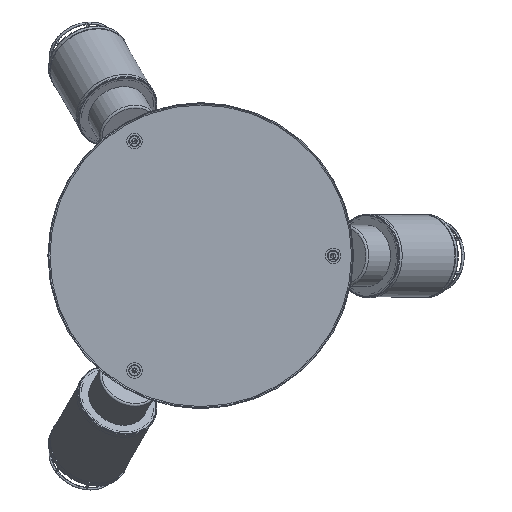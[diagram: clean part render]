
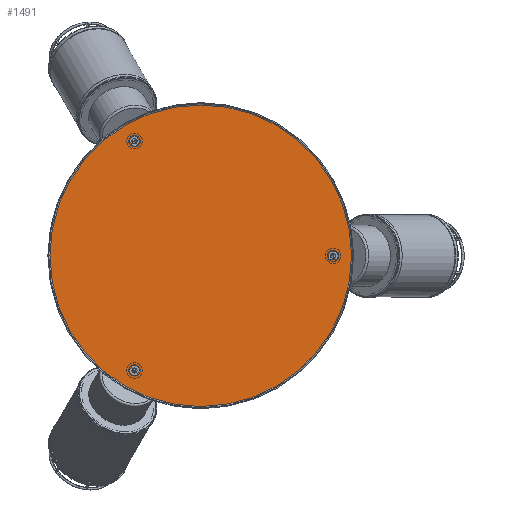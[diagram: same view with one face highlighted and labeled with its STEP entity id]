
A CAD part, top view. The second image highlights one B-rep face of the part: STEP entity #1491.
In plain terms, the highlighted planar face has unit normal (0, 0, 1).
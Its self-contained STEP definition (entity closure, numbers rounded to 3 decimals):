
#739=FACE_BOUND('',#2798,.T.);
#740=FACE_BOUND('',#2799,.T.);
#741=FACE_BOUND('',#2800,.T.);
#742=FACE_BOUND('',#2801,.T.);
#895=PLANE('',#9230);
#1491=ADVANCED_FACE('',(#739,#740,#741,#742),#895,.T.);
#2798=EDGE_LOOP('',(#5686,#5687));
#2799=EDGE_LOOP('',(#5688,#5689,#5690,#5691));
#2800=EDGE_LOOP('',(#5692,#5693,#5694,#5695));
#2801=EDGE_LOOP('',(#5696,#5697,#5698,#5699));
#3470=CIRCLE('',#9222,148.);
#3471=CIRCLE('',#9223,148.);
#3472=CIRCLE('',#9224,5.1);
#3473=CIRCLE('',#9225,5.1);
#3474=CIRCLE('',#9226,5.1);
#3475=CIRCLE('',#9227,5.1);
#3476=CIRCLE('',#9228,5.1);
#3477=CIRCLE('',#9229,5.1);
#5686=ORIENTED_EDGE('',*,*,#7592,.F.);
#5687=ORIENTED_EDGE('',*,*,#7593,.F.);
#5688=ORIENTED_EDGE('',*,*,#7594,.F.);
#5689=ORIENTED_EDGE('',*,*,#7595,.F.);
#5690=ORIENTED_EDGE('',*,*,#7596,.F.);
#5691=ORIENTED_EDGE('',*,*,#7597,.F.);
#5692=ORIENTED_EDGE('',*,*,#7598,.F.);
#5693=ORIENTED_EDGE('',*,*,#7599,.F.);
#5694=ORIENTED_EDGE('',*,*,#7600,.F.);
#5695=ORIENTED_EDGE('',*,*,#7601,.F.);
#5696=ORIENTED_EDGE('',*,*,#7602,.F.);
#5697=ORIENTED_EDGE('',*,*,#7603,.F.);
#5698=ORIENTED_EDGE('',*,*,#7604,.F.);
#5699=ORIENTED_EDGE('',*,*,#7605,.F.);
#6459=VERTEX_POINT('',#23839);
#6460=VERTEX_POINT('',#23840);
#6461=VERTEX_POINT('',#23843);
#6462=VERTEX_POINT('',#23844);
#6463=VERTEX_POINT('',#23846);
#6464=VERTEX_POINT('',#23848);
#6465=VERTEX_POINT('',#23851);
#6466=VERTEX_POINT('',#23852);
#6467=VERTEX_POINT('',#23854);
#6468=VERTEX_POINT('',#23856);
#6469=VERTEX_POINT('',#23859);
#6470=VERTEX_POINT('',#23860);
#6471=VERTEX_POINT('',#23862);
#6472=VERTEX_POINT('',#23864);
#7592=EDGE_CURVE('',#6459,#6460,#3470,.T.);
#7593=EDGE_CURVE('',#6460,#6459,#3471,.T.);
#7594=EDGE_CURVE('',#6461,#6462,#7880,.T.);
#7595=EDGE_CURVE('',#6463,#6461,#3472,.T.);
#7596=EDGE_CURVE('',#6464,#6463,#7881,.T.);
#7597=EDGE_CURVE('',#6462,#6464,#3473,.T.);
#7598=EDGE_CURVE('',#6465,#6466,#3474,.T.);
#7599=EDGE_CURVE('',#6467,#6465,#7882,.T.);
#7600=EDGE_CURVE('',#6468,#6467,#3475,.T.);
#7601=EDGE_CURVE('',#6466,#6468,#7883,.T.);
#7602=EDGE_CURVE('',#6469,#6470,#3476,.T.);
#7603=EDGE_CURVE('',#6471,#6469,#7884,.T.);
#7604=EDGE_CURVE('',#6472,#6471,#3477,.T.);
#7605=EDGE_CURVE('',#6470,#6472,#7885,.T.);
#7880=LINE('',#23842,#8154);
#7881=LINE('',#23847,#8155);
#7882=LINE('',#23853,#8156);
#7883=LINE('',#23857,#8157);
#7884=LINE('',#23861,#8158);
#7885=LINE('',#23865,#8159);
#8154=VECTOR('',#11606,1.);
#8155=VECTOR('',#11609,1.);
#8156=VECTOR('',#11614,1.);
#8157=VECTOR('',#11617,1.);
#8158=VECTOR('',#11620,1.);
#8159=VECTOR('',#11623,1.);
#9222=AXIS2_PLACEMENT_3D('',#23838,#11602,#11603);
#9223=AXIS2_PLACEMENT_3D('',#23841,#11604,#11605);
#9224=AXIS2_PLACEMENT_3D('',#23845,#11607,#11608);
#9225=AXIS2_PLACEMENT_3D('',#23849,#11610,#11611);
#9226=AXIS2_PLACEMENT_3D('',#23850,#11612,#11613);
#9227=AXIS2_PLACEMENT_3D('',#23855,#11615,#11616);
#9228=AXIS2_PLACEMENT_3D('',#23858,#11618,#11619);
#9229=AXIS2_PLACEMENT_3D('',#23863,#11621,#11622);
#9230=AXIS2_PLACEMENT_3D('',#23866,#11624,#11625);
#11602=DIRECTION('',(0.,0.,-1.));
#11603=DIRECTION('',(-1.,0.,0.));
#11604=DIRECTION('',(0.,0.,-1.));
#11605=DIRECTION('',(0.,1.,0.));
#11606=DIRECTION('',(0.5,0.866,0.));
#11607=DIRECTION('',(0.,0.,1.));
#11608=DIRECTION('',(1.,0.,0.));
#11609=DIRECTION('',(-0.5,-0.866,0.));
#11610=DIRECTION('',(0.,0.,1.));
#11611=DIRECTION('',(1.,0.,0.));
#11612=DIRECTION('',(0.,0.,1.));
#11613=DIRECTION('',(1.,0.,0.));
#11614=DIRECTION('',(1.,0.,0.));
#11615=DIRECTION('',(0.,0.,1.));
#11616=DIRECTION('',(1.,0.,0.));
#11617=DIRECTION('',(-1.,0.,0.));
#11618=DIRECTION('',(0.,0.,1.));
#11619=DIRECTION('',(1.,0.,0.));
#11620=DIRECTION('',(-0.5,0.866,0.));
#11621=DIRECTION('',(0.,0.,1.));
#11622=DIRECTION('',(0.,-1.,0.));
#11623=DIRECTION('',(0.5,-0.866,0.));
#11624=DIRECTION('',(0.,0.,1.));
#11625=DIRECTION('',(-1.,0.,0.));
#23838=CARTESIAN_POINT('',(0.,0.,-29.2));
#23839=CARTESIAN_POINT('',(-148.,0.,-29.2));
#23840=CARTESIAN_POINT('',(148.,0.,-29.2));
#23841=CARTESIAN_POINT('',(0.,0.,
-29.2));
#23842=CARTESIAN_POINT('',(-61.449,-114.633,-29.2));
#23843=CARTESIAN_POINT('',(-62.966,-117.26,-29.2));
#23844=CARTESIAN_POINT('',(-59.933,-112.007,-29.2));
#23845=CARTESIAN_POINT('',(-65.,-112.583,-29.2));
#23846=CARTESIAN_POINT('',(-70.067,-113.16,-29.2));
#23847=CARTESIAN_POINT('',(-68.551,-110.533,-29.2));
#23848=CARTESIAN_POINT('',(-67.034,-107.907,-29.2));
#23849=CARTESIAN_POINT('',(-65.,-112.583,-29.2));
#23850=CARTESIAN_POINT('',(130.,0.,-29.2));
#23851=CARTESIAN_POINT('',(133.033,-4.1,-29.2));
#23852=CARTESIAN_POINT('',(133.033,4.1,-29.2));
#23853=CARTESIAN_POINT('',(130.,-4.1,-29.2));
#23854=CARTESIAN_POINT('',(126.967,-4.1,-29.2));
#23855=CARTESIAN_POINT('',(130.,0.,-29.2));
#23856=CARTESIAN_POINT('',(126.967,4.1,-29.2));
#23857=CARTESIAN_POINT('',(130.,4.1,-29.2));
#23858=CARTESIAN_POINT('',(-65.,112.583,-29.2));
#23859=CARTESIAN_POINT('',(-62.966,117.26,-29.2));
#23860=CARTESIAN_POINT('',(-70.067,113.16,-29.2));
#23861=CARTESIAN_POINT('',(-61.449,114.633,-29.2));
#23862=CARTESIAN_POINT('',(-59.933,112.007,-29.2));
#23863=CARTESIAN_POINT('',(-65.,112.583,-29.2));
#23864=CARTESIAN_POINT('',(-67.034,107.907,-29.2));
#23865=CARTESIAN_POINT('',(-68.551,110.533,-29.2));
#23866=CARTESIAN_POINT('',(-148.,148.,-29.2));
